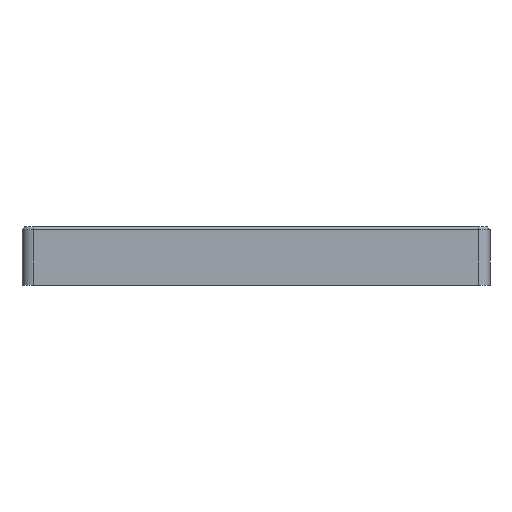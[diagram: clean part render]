
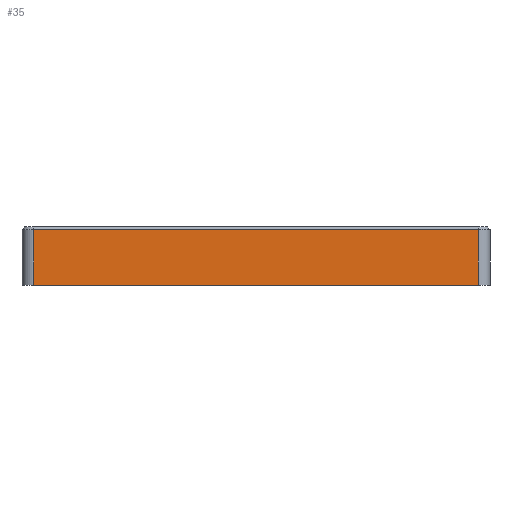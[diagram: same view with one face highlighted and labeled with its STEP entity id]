
A CAD part, left-side view. The second image highlights one B-rep face of the part: STEP entity #35.
In plain terms, the highlighted planar face has unit normal (-1, 0, 0).
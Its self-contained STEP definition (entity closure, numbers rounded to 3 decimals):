
#35 = ADVANCED_FACE('',(#36),#50,.F.);
#36 = FACE_BOUND('',#37,.F.);
#37 = EDGE_LOOP('',(#38,#73,#101,#129));
#38 = ORIENTED_EDGE('',*,*,#39,.F.);
#39 = EDGE_CURVE('',#40,#42,#44,.T.);
#40 = VERTEX_POINT('',#41);
#41 = CARTESIAN_POINT('',(-60.,-38.,0.));
#42 = VERTEX_POINT('',#43);
#43 = CARTESIAN_POINT('',(-60.,-38.,9.5));
#44 = SURFACE_CURVE('',#45,(#49,#61),.PCURVE_S1.);
#45 = LINE('',#46,#47);
#46 = CARTESIAN_POINT('',(-60.,-38.,0.));
#47 = VECTOR('',#48,1.);
#48 = DIRECTION('',(0.,0.,1.));
#49 = PCURVE('',#50,#55);
#50 = PLANE('',#51);
#51 = AXIS2_PLACEMENT_3D('',#52,#53,#54);
#52 = CARTESIAN_POINT('',(-60.,-40.,0.));
#53 = DIRECTION('',(1.,0.,0.));
#54 = DIRECTION('',(0.,0.,1.));
#55 = DEFINITIONAL_REPRESENTATION('',(#56),#60);
#56 = LINE('',#57,#58);
#57 = CARTESIAN_POINT('',(0.,-2.));
#58 = VECTOR('',#59,1.);
#59 = DIRECTION('',(1.,0.));
#60 = ( GEOMETRIC_REPRESENTATION_CONTEXT(2) 
PARAMETRIC_REPRESENTATION_CONTEXT() REPRESENTATION_CONTEXT('2D SPACE',''
  ) );
#61 = PCURVE('',#62,#67);
#62 = CYLINDRICAL_SURFACE('',#63,2.);
#63 = AXIS2_PLACEMENT_3D('',#64,#65,#66);
#64 = CARTESIAN_POINT('',(-58.,-38.,0.));
#65 = DIRECTION('',(0.,0.,1.));
#66 = DIRECTION('',(-1.,-0.,0.));
#67 = DEFINITIONAL_REPRESENTATION('',(#68),#72);
#68 = LINE('',#69,#70);
#69 = CARTESIAN_POINT('',(0.,0.));
#70 = VECTOR('',#71,1.);
#71 = DIRECTION('',(0.,1.));
#72 = ( GEOMETRIC_REPRESENTATION_CONTEXT(2) 
PARAMETRIC_REPRESENTATION_CONTEXT() REPRESENTATION_CONTEXT('2D SPACE',''
  ) );
#73 = ORIENTED_EDGE('',*,*,#74,.T.);
#74 = EDGE_CURVE('',#40,#75,#77,.T.);
#75 = VERTEX_POINT('',#76);
#76 = CARTESIAN_POINT('',(-60.,38.,0.));
#77 = SURFACE_CURVE('',#78,(#82,#89),.PCURVE_S1.);
#78 = LINE('',#79,#80);
#79 = CARTESIAN_POINT('',(-60.,-40.,0.));
#80 = VECTOR('',#81,1.);
#81 = DIRECTION('',(0.,1.,0.));
#82 = PCURVE('',#50,#83);
#83 = DEFINITIONAL_REPRESENTATION('',(#84),#88);
#84 = LINE('',#85,#86);
#85 = CARTESIAN_POINT('',(0.,0.));
#86 = VECTOR('',#87,1.);
#87 = DIRECTION('',(0.,-1.));
#88 = ( GEOMETRIC_REPRESENTATION_CONTEXT(2) 
PARAMETRIC_REPRESENTATION_CONTEXT() REPRESENTATION_CONTEXT('2D SPACE',''
  ) );
#89 = PCURVE('',#90,#95);
#90 = PLANE('',#91);
#91 = AXIS2_PLACEMENT_3D('',#92,#93,#94);
#92 = CARTESIAN_POINT('',(-60.,-40.,0.));
#93 = DIRECTION('',(0.,0.,1.));
#94 = DIRECTION('',(1.,0.,0.));
#95 = DEFINITIONAL_REPRESENTATION('',(#96),#100);
#96 = LINE('',#97,#98);
#97 = CARTESIAN_POINT('',(0.,0.));
#98 = VECTOR('',#99,1.);
#99 = DIRECTION('',(0.,1.));
#100 = ( GEOMETRIC_REPRESENTATION_CONTEXT(2) 
PARAMETRIC_REPRESENTATION_CONTEXT() REPRESENTATION_CONTEXT('2D SPACE',''
  ) );
#101 = ORIENTED_EDGE('',*,*,#102,.T.);
#102 = EDGE_CURVE('',#75,#103,#105,.T.);
#103 = VERTEX_POINT('',#104);
#104 = CARTESIAN_POINT('',(-60.,38.,9.5));
#105 = SURFACE_CURVE('',#106,(#110,#117),.PCURVE_S1.);
#106 = LINE('',#107,#108);
#107 = CARTESIAN_POINT('',(-60.,38.,0.));
#108 = VECTOR('',#109,1.);
#109 = DIRECTION('',(0.,0.,1.));
#110 = PCURVE('',#50,#111);
#111 = DEFINITIONAL_REPRESENTATION('',(#112),#116);
#112 = LINE('',#113,#114);
#113 = CARTESIAN_POINT('',(0.,-78.));
#114 = VECTOR('',#115,1.);
#115 = DIRECTION('',(1.,0.));
#116 = ( GEOMETRIC_REPRESENTATION_CONTEXT(2) 
PARAMETRIC_REPRESENTATION_CONTEXT() REPRESENTATION_CONTEXT('2D SPACE',''
  ) );
#117 = PCURVE('',#118,#123);
#118 = CYLINDRICAL_SURFACE('',#119,2.);
#119 = AXIS2_PLACEMENT_3D('',#120,#121,#122);
#120 = CARTESIAN_POINT('',(-58.,38.,0.));
#121 = DIRECTION('',(0.,0.,1.));
#122 = DIRECTION('',(-1.,-0.,0.));
#123 = DEFINITIONAL_REPRESENTATION('',(#124),#128);
#124 = LINE('',#125,#126);
#125 = CARTESIAN_POINT('',(-0.,0.));
#126 = VECTOR('',#127,1.);
#127 = DIRECTION('',(-0.,1.));
#128 = ( GEOMETRIC_REPRESENTATION_CONTEXT(2) 
PARAMETRIC_REPRESENTATION_CONTEXT() REPRESENTATION_CONTEXT('2D SPACE',''
  ) );
#129 = ORIENTED_EDGE('',*,*,#130,.F.);
#130 = EDGE_CURVE('',#42,#103,#131,.T.);
#131 = SURFACE_CURVE('',#132,(#136,#143),.PCURVE_S1.);
#132 = LINE('',#133,#134);
#133 = CARTESIAN_POINT('',(-60.,-38.,9.5));
#134 = VECTOR('',#135,1.);
#135 = DIRECTION('',(0.,1.,0.));
#136 = PCURVE('',#50,#137);
#137 = DEFINITIONAL_REPRESENTATION('',(#138),#142);
#138 = LINE('',#139,#140);
#139 = CARTESIAN_POINT('',(9.5,-2.));
#140 = VECTOR('',#141,1.);
#141 = DIRECTION('',(0.,-1.));
#142 = ( GEOMETRIC_REPRESENTATION_CONTEXT(2) 
PARAMETRIC_REPRESENTATION_CONTEXT() REPRESENTATION_CONTEXT('2D SPACE',''
  ) );
#143 = PCURVE('',#144,#149);
#144 = PLANE('',#145);
#145 = AXIS2_PLACEMENT_3D('',#146,#147,#148);
#146 = CARTESIAN_POINT('',(-59.75,-38.,9.75));
#147 = DIRECTION('',(0.707,0.,-0.707));
#148 = DIRECTION('',(0.,1.,0.));
#149 = DEFINITIONAL_REPRESENTATION('',(#150),#154);
#150 = LINE('',#151,#152);
#151 = CARTESIAN_POINT('',(0.,-0.354));
#152 = VECTOR('',#153,1.);
#153 = DIRECTION('',(1.,0.));
#154 = ( GEOMETRIC_REPRESENTATION_CONTEXT(2) 
PARAMETRIC_REPRESENTATION_CONTEXT() REPRESENTATION_CONTEXT('2D SPACE',''
  ) );
